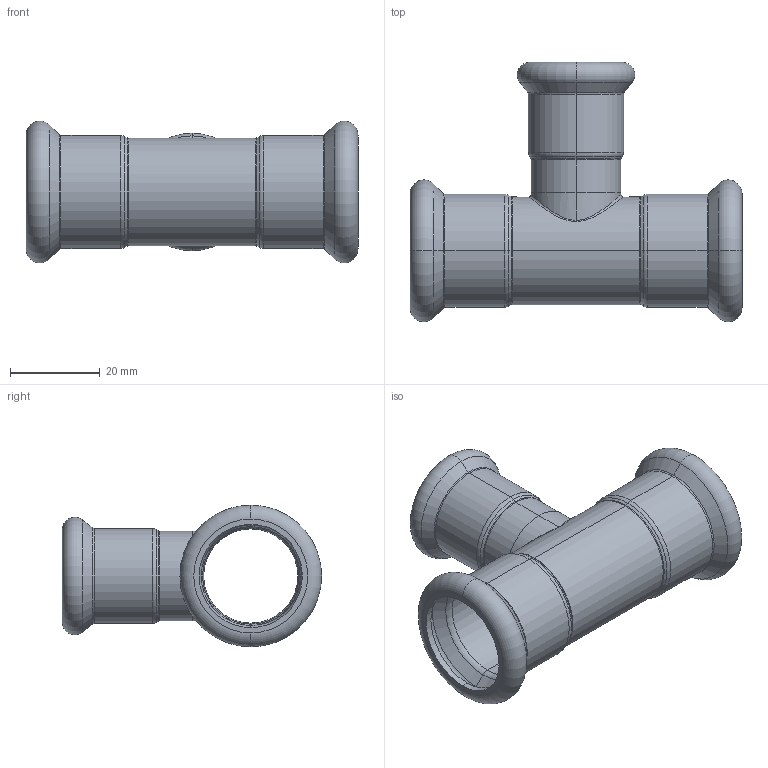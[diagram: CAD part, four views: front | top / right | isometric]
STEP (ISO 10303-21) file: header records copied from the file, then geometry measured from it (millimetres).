
FILE_DESCRIPTION (( 'STEP AP203' ), '1' );
FILE_NAME ('GDA5193.STEP', '2019-01-12T05:48:18', ( '' ), ( '' ), 'SwSTEP 2.0', 'SolidWorks 2015', '' );
FILE_SCHEMA (( 'CONFIG_CONTROL_DESIGN' ));
Length unit declared in the file: millimetre
Products named in the file (3): GDA5193; T(R)-¢ñ-22¡Á18''; T-ｉ-01-18
Assembly tree (2 placements, depth 2):
  GDA5193
    T(R)-¢ñ-22¡Á18''
    T-ｉ-01-18
Bounding box: 74 x 57.8 x 31.59 mm (x, y, z)
Volume: 11986 mm3; surface area: 16471 mm2
Topology: 2 solids, 2 shells, 114 faces, 234 edges, 128 vertices
Faces by surface type: torus 48, cylinder 30, cone 24, plane 8, bspline 4
Entity records: 4304 total; most frequent: CARTESIAN_POINT 1514, DIRECTION 620, ORIENTED_EDGE 468, AXIS2_PLACEMENT_3D 283, EDGE_CURVE 234, CIRCLE 168, VERTEX_POINT 128, EDGE_LOOP 124
